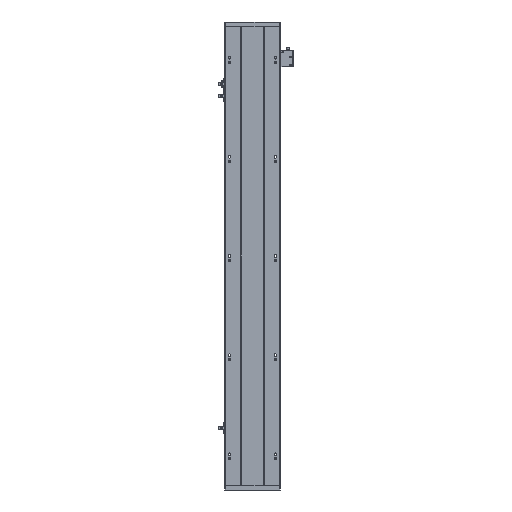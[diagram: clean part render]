
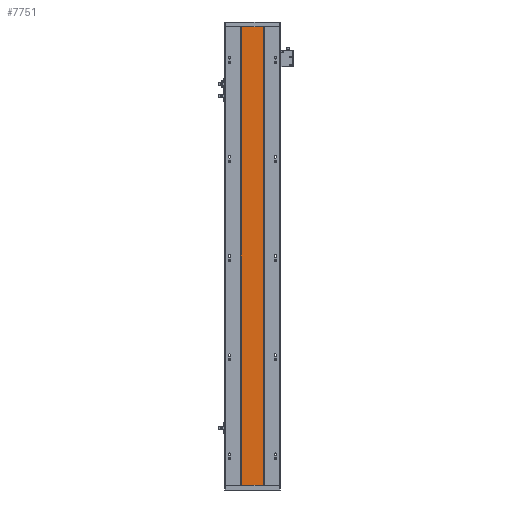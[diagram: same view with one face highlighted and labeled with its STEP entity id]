
A CAD part, front view. The second image highlights one B-rep face of the part: STEP entity #7751.
In plain terms, the highlighted planar face has unit normal (0, -1, 0).
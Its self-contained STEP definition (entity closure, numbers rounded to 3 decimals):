
#43 = PLANE ( 'NONE',  #1481 ) ;
#211 = ORIENTED_EDGE ( 'NONE', *, *, #21335, .T. ) ;
#791 = ORIENTED_EDGE ( 'NONE', *, *, #18306, .F. ) ;
#941 = FACE_OUTER_BOUND ( 'NONE', #25787, .T. ) ;
#1481 = AXIS2_PLACEMENT_3D ( 'NONE', #12124, #14139, #18925 ) ;
#1951 = VERTEX_POINT ( 'NONE', #14146 ) ;
#2814 = CARTESIAN_POINT ( 'NONE',  ( 183.063, 115.96, 1000. ) ) ;
#3816 = ORIENTED_EDGE ( 'NONE', *, *, #13514, .F. ) ;
#4713 = VECTOR ( 'NONE', #12609, 1000. ) ;
#5435 = DIRECTION ( 'NONE',  ( 1., 0., 0. ) ) ;
#5931 = CARTESIAN_POINT ( 'NONE',  ( 0., 115.96, 1000. ) ) ;
#7751 = ADVANCED_FACE ( 'NONE', ( #941 ), #43, .F. ) ;
#8377 = CARTESIAN_POINT ( 'NONE',  ( 183.063, 115.96, 0. ) ) ;
#8620 = CARTESIAN_POINT ( 'NONE',  ( 133.07, 115.96, 1000. ) ) ;
#9283 = VECTOR ( 'NONE', #19929, 1000. ) ;
#9415 = ORIENTED_EDGE ( 'NONE', *, *, #15845, .T. ) ;
#10572 = VERTEX_POINT ( 'NONE', #8620 ) ;
#11505 = LINE ( 'NONE', #16750, #15880 ) ;
#12124 = CARTESIAN_POINT ( 'NONE',  ( 0., 115.96, 1000. ) ) ;
#12609 = DIRECTION ( 'NONE',  ( 0., 0., -1. ) ) ;
#13514 = EDGE_CURVE ( 'NONE', #21801, #16672, #15076, .T. ) ;
#14139 = DIRECTION ( 'NONE',  ( 0., 1., 0. ) ) ;
#14146 = CARTESIAN_POINT ( 'NONE',  ( 133.07, 115.96, 0. ) ) ;
#15076 = LINE ( 'NONE', #2814, #4713 ) ;
#15845 = EDGE_CURVE ( 'NONE', #1951, #16672, #17592, .T. ) ;
#15880 = VECTOR ( 'NONE', #24694, 1000. ) ;
#16672 = VERTEX_POINT ( 'NONE', #8377 ) ;
#16750 = CARTESIAN_POINT ( 'NONE',  ( 133.07, 115.96, 1000. ) ) ;
#17592 = LINE ( 'NONE', #23176, #25058 ) ;
#18306 = EDGE_CURVE ( 'NONE', #10572, #21801, #24942, .T. ) ;
#18925 = DIRECTION ( 'NONE',  ( -1., 0., 0. ) ) ;
#19929 = DIRECTION ( 'NONE',  ( 1., 0., 0. ) ) ;
#21335 = EDGE_CURVE ( 'NONE', #10572, #1951, #11505, .T. ) ;
#21801 = VERTEX_POINT ( 'NONE', #22312 ) ;
#22312 = CARTESIAN_POINT ( 'NONE',  ( 183.063, 115.96, 1000. ) ) ;
#23176 = CARTESIAN_POINT ( 'NONE',  ( 0., 115.96, 0. ) ) ;
#24694 = DIRECTION ( 'NONE',  ( 0., 0., -1. ) ) ;
#24942 = LINE ( 'NONE', #5931, #9283 ) ;
#25058 = VECTOR ( 'NONE', #5435, 1000. ) ;
#25787 = EDGE_LOOP ( 'NONE', ( #9415, #3816, #791, #211 ) ) ;
